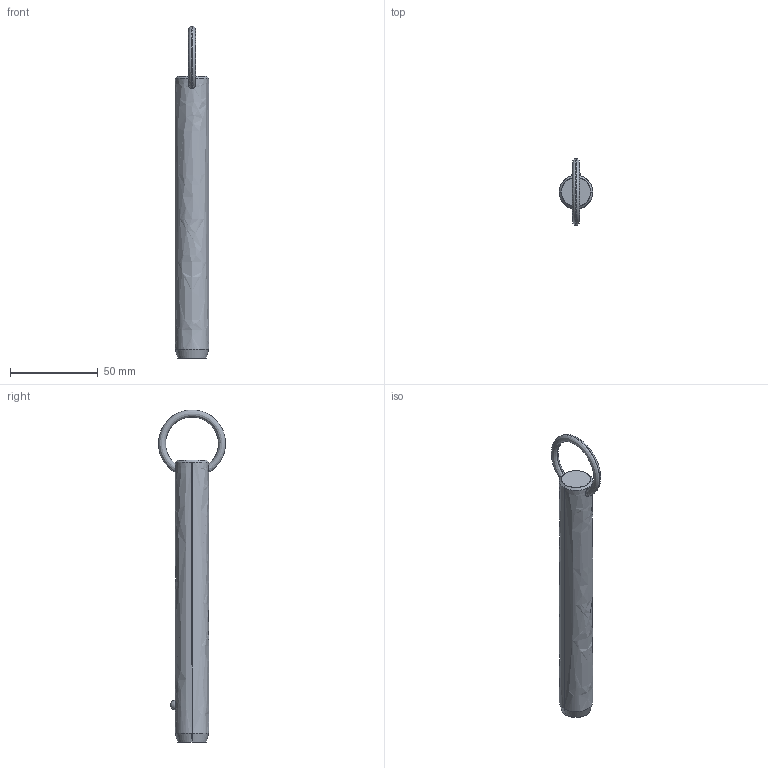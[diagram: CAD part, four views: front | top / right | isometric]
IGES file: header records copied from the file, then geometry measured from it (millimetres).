
Start section: SolidWorks IGES file using analytic representation for surfaces
Global section: file name: C:\Users\liam_\OneDrive\Documents\WORK\Work for WixRoyd\Job Files\J-00019 - Matt Davis CAD Checking\04. CAD Drawings\automotion20190605\P1250.2_v2\P1250.2_v2_20190729_IGES\P1250.075-500.igs; native system: SolidWorks 2017; preprocessor: SolidWorks 2017; author: liam_; date: 190729.235623; units: millimetre
Bounding box: 19 x 38.1 x 188.79 mm (x, y, z)
Surface area: 11095.2 mm2 (no closed solid volume)
Topology: 0 solids, 0 shells, 12 faces, 294 edges, 292 vertices
Faces by surface type: revolution 8, bspline 4
